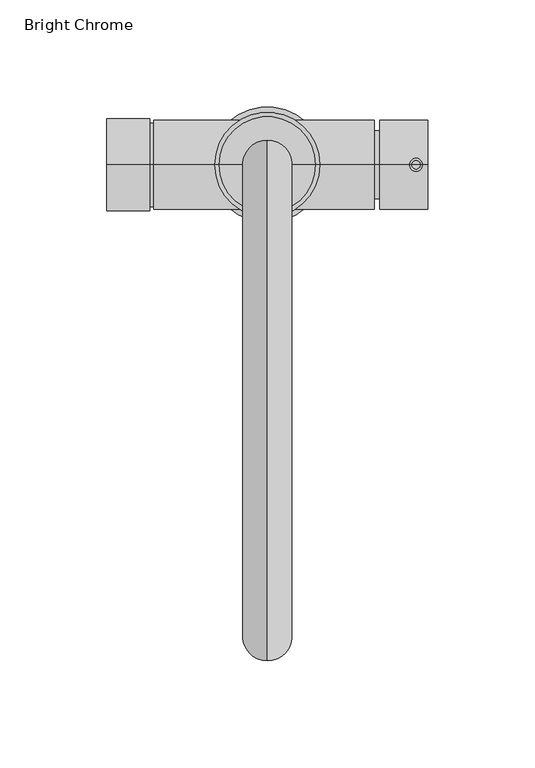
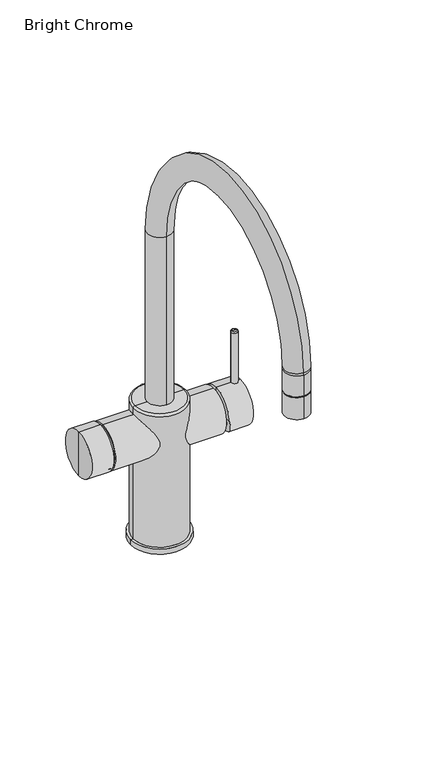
"""IFC4 building model written with IfcOpenShell, lengths in millimetres: flow terminal geometry, z_PlumFixt_Zenith_Celsius Arc : Bright Chrome."""

from ifc_helpers import new_model, si_unit, point, frame, frame_2d, origin, place, context, project, spatial, circle_curve, ellipse_curve, trimmed, segment, composite_curve, outline, extrude, source, transform, mapped, element, save
from ifc_brep_helpers import plane_surface, cylinder_surface, revolved_surface, advanced_brep


def bright_chrome_ca6152f3(model_context):
    return source(origin(), model_context, "Body", "SolidModel", [
        advanced_brep(
        [(68.5351919, 88.75, 176.8850432), (72.5351919, 88.75, 176.8850432), (70.5351919, 88.75, 176.8850432), (67.5351919, 88.75, 175.8850432), (73.5351919, 88.75, 175.8850432), (67.5351919, 88.75, 123.0), (73.5351919, 88.75, 123.0), (70.5351919, 88.75, 123.0)],
        [
            (0, 1, circle_curve(frame((70.5351919, 88.75, 176.8850432), z_axis=(0.0, 0.0, 1.0), x_axis=(1.0, 0.0, 0.0)), 2.0)),
            (1, 2),
            (2, 0),
            (1, 0, circle_curve(frame((70.5351919, 88.75, 176.8850432), z_axis=(0.0, 0.0, 1.0), x_axis=(1.0, 0.0, 0.0)), 2.0)),
            (3, 4, circle_curve(frame((70.5351919, 88.75, 175.8850432), z_axis=(0.0, 0.0, 1.0), x_axis=(1.0, 0.0, 0.0)), 3.0)),
            (4, 1, circle_curve(frame((72.5351919, 88.75, 175.8850432), z_axis=(0.0, -1.0, 0.0), x_axis=(-1.0, 0.0, 0.0)), 1.0)),
            (0, 3, circle_curve(frame((68.5351919, 88.75, 175.8850432), z_axis=(0.0, -1.0, 0.0), x_axis=(1.0, 0.0, 0.0)), 1.0)),
            (4, 3, circle_curve(frame((70.5351919, 88.75, 175.8850432), z_axis=(0.0, 0.0, 1.0), x_axis=(1.0, 0.0, 0.0)), 3.0)),
            (5, 6, circle_curve(frame((70.5351919, 88.75, 123.0), z_axis=(0.0, 0.0, 1.0), x_axis=(1.0, 0.0, 0.0)), 3.0)),
            (6, 4),
            (3, 5),
            (6, 5, circle_curve(frame((70.5351919, 88.75, 123.0), z_axis=(0.0, 0.0, 1.0), x_axis=(1.0, 0.0, 0.0)), 3.0)),
            (7, 6),
            (5, 7),
        ],
        [
            plane_surface(frame((70.5351919, 88.75, 176.8850432), z_axis=(0.0, 0.0, 1.0), x_axis=(1.0, 0.0, 0.0))),
            revolved_surface(trimmed(ellipse_curve(frame((72.5351919, 88.75, 175.8850432), z_axis=(0.0, 1.0, 0.0), x_axis=(-1.0, 0.0, 0.0)), 1.0, 1.0), [point((72.5351919, 88.75, 176.8850432))], [point((73.5351919, 88.75, 175.8850432))], True, "CARTESIAN"), (70.5351919, 88.75, 123.0), (0.0, 0.0, -1.0)),
            cylinder_surface(frame((70.5351919, 88.75, 123.0), z_axis=(0.0, 0.0, -1.0), x_axis=(1.0, 0.0, 0.0)), 3.0),
            plane_surface(frame((70.5351919, 88.75, 123.0), z_axis=(0.0, 0.0, -1.0), x_axis=(1.0, 0.0, 0.0))),
        ],
        [
            (0, [[1, 2, 3]]),
            (0, [[4, -3, -2]]),
            (1, [[5, 6, -1, 7]]),
            (1, [[8, -7, -4, -6]]),
            (2, [[9, 10, -5, 11]]),
            (2, [[12, -11, -8, -10]]),
            (3, [[13, -9, 14]]),
            (3, [[-14, -12, -13]]),
        ],
    ),
        advanced_brep(
        [(76.0, 88.75, 84.8850432), (76.0, 88.75, 126.8850432), (53.5, 88.75, 126.8850432), (53.5, 67.75, 105.8850432), (59.126933, 88.75, 84.8850432), (53.5, 109.75, 105.8850432), (53.5, 88.75, 105.8850432), (76.0, 88.75, 105.8850432)],
        [
            (0, 1, circle_curve(frame((76.0, 88.75, 105.8850432), z_axis=(-1.0, 0.0, 0.0), x_axis=(0.0, 0.0, 1.0)), 21.0)),
            (1, 2),
            (2, 3, circle_curve(frame((53.5, 88.75, 105.8850432), z_axis=(1.0, 0.0, 0.0), x_axis=(0.0, 0.0, 1.0)), 21.0)),
            (3, 4, ellipse_curve(frame((53.5, 88.75, 105.8850432), z_axis=(0.9659258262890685, 0.0, 0.2588190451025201), x_axis=(0.25881904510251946, 0.0, -0.9659258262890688)), 21.7407998, 21.0)),
            (4, 0),
            (1, 0, circle_curve(frame((76.0, 88.75, 105.8850432), z_axis=(-1.0, 0.0, 0.0), x_axis=(0.0, 0.0, 1.0)), 21.0)),
            (4, 5, ellipse_curve(frame((53.5, 88.75, 105.8850432), z_axis=(0.9659258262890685, 0.0, 0.2588190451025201), x_axis=(0.25881904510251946, 0.0, -0.9659258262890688)), 21.7407998, 21.0)),
            (5, 2, circle_curve(frame((53.5, 88.75, 105.8850432), z_axis=(1.0, 0.0, 0.0), x_axis=(0.0, 0.0, 1.0)), 21.0)),
            (2, 6),
            (6, 3),
            (5, 6),
            (0, 7),
            (7, 1),
        ],
        [
            cylinder_surface(frame((1.0, 88.75, 105.8850432), z_axis=(1.0, 0.0, 0.0), x_axis=(0.0, 0.0, 1.0)), 21.0),
            plane_surface(frame((53.5, 88.75, 105.8850432), z_axis=(-1.0, 0.0, 0.0), x_axis=(0.0, 0.0, 1.0))),
            plane_surface(frame((76.0, 88.75, 105.8850432), z_axis=(1.0, 0.0, 0.0), x_axis=(0.0, 0.0, 1.0))),
            plane_surface(frame((53.5, 115.75, 105.8850432), z_axis=(-0.9659258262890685, 0.0, -0.2588190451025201), x_axis=(0.0, -1.0, 0.0))),
        ],
        [
            (0, [[1, 2, 3, 4, 5]]),
            (0, [[-2, 6, -5, 7, 8]]),
            (1, [[9, 10, -3]]),
            (1, [[-9, -8, 11]]),
            (2, [[-1, 12, 13]]),
            (2, [[-6, -13, -12]]),
            (3, [[-4, -10, -11, -7]]),
        ],
    ),
        advanced_brep(
        [(1.0, -131.75, 253.0378342), (1.0, -136.75, 253.0378342), (1.0, -126.75, 253.0378342), (1.0, -136.75, 255.0), (1.0, -126.75, 255.0), (1.0, -143.25, 255.0), (1.0, -120.25, 255.0), (1.0, -120.25, 277.5), (1.0, -143.25, 277.5), (1.0, -143.25, 297.7861871), (1.0, -120.25, 297.7861871), (1.0, -121.2057691, 277.5), (1.0, -142.2942309, 277.5), (1.0, -121.2057691, 276.4755357), (1.0, -142.2942309, 276.4755357), (1.0, -120.25, 276.4755357), (1.0, -143.25, 276.4755357), (1.0, 100.25, 135.0), (1.0, 77.25, 135.0), (1.0, 100.25, 300.25), (1.0, 77.25, 300.25), (1.0, -143.25, 300.25), (1.0, -120.25, 300.25)],
        [
            (0, 1),
            (1, 2, circle_curve(frame((1.0, -131.75, 253.0378342), z_axis=(0.0, 0.0, -1.0), x_axis=(0.0, -1.0, 0.0)), 5.0)),
            (2, 0),
            (2, 1, circle_curve(frame((1.0, -131.75, 253.0378342), z_axis=(0.0, 0.0, -1.0), x_axis=(0.0, -1.0, 0.0)), 5.0)),
            (1, 3),
            (3, 4, circle_curve(frame((1.0, -131.75, 255.0), z_axis=(0.0, 0.0, -1.0), x_axis=(0.0, -1.0, 0.0)), 5.0)),
            (4, 2),
            (4, 3, circle_curve(frame((1.0, -131.75, 255.0), z_axis=(0.0, 0.0, -1.0), x_axis=(0.0, -1.0, 0.0)), 5.0)),
            (3, 5),
            (5, 6, circle_curve(frame((1.0, -131.75, 255.0), z_axis=(0.0, 0.0, -1.0), x_axis=(0.0, -1.0, 0.0)), 11.5)),
            (6, 4),
            (6, 5, circle_curve(frame((1.0, -131.75, 255.0), z_axis=(0.0, 0.0, -1.0), x_axis=(0.0, -1.0, 0.0)), 11.5)),
            (7, 8, circle_curve(frame((1.0, -131.75, 277.5), z_axis=(0.0, 0.0, 1.0), x_axis=(0.0, -1.0, 0.0)), 11.5)),
            (8, 9),
            (9, 10, circle_curve(frame((1.0, -131.75, 297.7861871), z_axis=(0.0, 0.0, -1.0), x_axis=(0.0, -1.0, 0.0)), 11.5)),
            (10, 7),
            (8, 7, circle_curve(frame((1.0, -131.75, 277.5), z_axis=(0.0, 0.0, 1.0), x_axis=(0.0, -1.0, 0.0)), 11.5)),
            (10, 9, circle_curve(frame((1.0, -131.75, 297.7861871), z_axis=(0.0, 0.0, -1.0), x_axis=(0.0, -1.0, 0.0)), 11.5)),
            (7, 11),
            (11, 12, circle_curve(frame((1.0, -131.75, 277.5), z_axis=(0.0, 0.0, 1.0), x_axis=(0.0, -1.0, 0.0)), 10.5442309)),
            (12, 8),
            (12, 11, circle_curve(frame((1.0, -131.75, 277.5), z_axis=(0.0, 0.0, 1.0), x_axis=(0.0, -1.0, 0.0)), 10.5442309)),
            (11, 13),
            (13, 14, circle_curve(frame((1.0, -131.75, 276.4755357), z_axis=(0.0, 0.0, 1.0), x_axis=(0.0, -1.0, 0.0)), 10.5442309)),
            (14, 12),
            (14, 13, circle_curve(frame((1.0, -131.75, 276.4755357), z_axis=(0.0, 0.0, 1.0), x_axis=(0.0, -1.0, 0.0)), 10.5442309)),
            (13, 15),
            (15, 16, circle_curve(frame((1.0, -131.75, 276.4755357), z_axis=(0.0, 0.0, 1.0), x_axis=(0.0, -1.0, 0.0)), 11.5)),
            (16, 14),
            (16, 15, circle_curve(frame((1.0, -131.75, 276.4755357), z_axis=(0.0, 0.0, 1.0), x_axis=(0.0, -1.0, 0.0)), 11.5)),
            (5, 16),
            (15, 6),
            (17, 18, circle_curve(frame((1.0, 88.75, 135.0), z_axis=(0.0, 0.0, -1.0), x_axis=(0.0, -1.0, 0.0)), 11.5)),
            (18, 17, circle_curve(frame((1.0, 88.75, 135.0), z_axis=(0.0, 0.0, -1.0), x_axis=(0.0, -1.0, 0.0)), 11.5)),
            (17, 19),
            (19, 20, circle_curve(frame((1.0, 88.75, 300.25), z_axis=(0.0, 0.0, -1.0), x_axis=(0.0, -1.0, 0.0)), 11.5)),
            (20, 18),
            (20, 19, circle_curve(frame((1.0, 88.75, 300.25), z_axis=(0.0, 0.0, -1.0), x_axis=(0.0, -1.0, 0.0)), 11.5)),
            (19, 21, circle_curve(frame((1.0, -21.5, 300.25), z_axis=(1.0, 0.0, 0.0), x_axis=(0.0, 1.0, 0.0)), 121.75)),
            (21, 22, circle_curve(frame((1.0, -131.75, 300.25), z_axis=(0.0, 0.0, 1.0), x_axis=(0.0, 1.0, 0.0)), 11.5)),
            (22, 20, circle_curve(frame((1.0, -21.5, 300.25), z_axis=(-1.0, 0.0, 0.0), x_axis=(0.0, 1.0, 0.0)), 98.75)),
            (22, 21, circle_curve(frame((1.0, -131.75, 300.25), z_axis=(0.0, 0.0, 1.0), x_axis=(0.0, 1.0, 0.0)), 11.5)),
            (21, 9),
            (10, 22),
        ],
        [
            plane_surface(frame((1.0, -131.75, 253.0378342), z_axis=(0.0, 0.0, -1.0), x_axis=(0.0, -1.0, 0.0))),
            cylinder_surface(frame((1.0, -131.75, 297.7861871), z_axis=(0.0, 0.0, -1.0), x_axis=(0.0, -1.0, 0.0)), 5.0),
            plane_surface(frame((1.0, -131.75, 255.0), z_axis=(0.0, 0.0, -1.0), x_axis=(0.0, -1.0, 0.0))),
            cylinder_surface(frame((1.0, -131.75, 297.7861871), z_axis=(0.0, 0.0, -1.0), x_axis=(0.0, -1.0, 0.0)), 11.5),
            plane_surface(frame((1.0, -131.75, 277.5), z_axis=(0.0, 0.0, -1.0), x_axis=(0.0, -1.0, 0.0))),
            cylinder_surface(frame((1.0, -131.75, 297.7861871), z_axis=(0.0, 0.0, -1.0), x_axis=(0.0, -1.0, 0.0)), 10.5442309),
            plane_surface(frame((1.0, -131.75, 276.4755357), z_axis=(0.0, 0.0, 1.0), x_axis=(0.0, -1.0, 0.0))),
            plane_surface(frame((1.0, 88.75, 135.0), z_axis=(0.0, 0.0, -1.0), x_axis=(1.0, 0.0, 0.0))),
            cylinder_surface(frame((1.0, 88.75, 135.0), z_axis=(0.0, 0.0, -1.0), x_axis=(0.0, -1.0, 0.0)), 11.5),
            revolved_surface(trimmed(ellipse_curve(frame((1.0, 88.75, 300.25), z_axis=(0.0, 0.0, -1.0), x_axis=(0.0, -1.0, 0.0)), 11.5, 11.5), [point((1.0, 100.25, 300.25))], [point((1.0, 77.25, 300.25))], True, "CARTESIAN"), (1.0, -21.5, 300.25), (1.0, 0.0, 0.0)),
            revolved_surface(trimmed(ellipse_curve(frame((1.0, 88.75, 300.25), z_axis=(0.0, 0.0, -1.0), x_axis=(0.0, -1.0, 0.0)), 11.5, 11.5), [point((1.0, 77.25, 300.25))], [point((1.0, 100.25, 300.25))], True, "CARTESIAN"), (1.0, -21.5, 300.25), (1.0, 0.0, 0.0)),
            cylinder_surface(frame((1.0, -131.75, 300.25), z_axis=(0.0, 0.0, 1.0), x_axis=(0.0, 1.0, 0.0)), 11.5),
        ],
        [
            (0, [[1, 2, 3]]),
            (0, [[-1, -3, 4]]),
            (1, [[-2, 5, 6, 7]]),
            (1, [[-4, -7, 8, -5]]),
            (2, [[-6, 9, 10, 11]]),
            (2, [[-8, -11, 12, -9]]),
            (3, [[13, 14, 15, 16]]),
            (3, [[-14, 17, -16, 18]]),
            (4, [[-13, 19, 20, 21]]),
            (4, [[-17, -21, 22, -19]]),
            (5, [[-20, 23, 24, 25]]),
            (5, [[-22, -25, 26, -23]]),
            (6, [[-24, 27, 28, 29]]),
            (6, [[-26, -29, 30, -27]]),
            (3, [[-10, 31, -28, 32]]),
            (3, [[-12, -32, -30, -31]]),
            (7, [[33, 34]]),
            (8, [[-33, 35, 36, 37]]),
            (8, [[-34, -37, 38, -35]]),
            (9, [[-36, 39, 40, 41]]),
            (10, [[-38, -41, 42, -39]]),
            (11, [[-40, 43, -18, 44]]),
            (11, [[-42, -44, -15, -43]]),
        ],
    ),
        extrude(outline(composite_curve([segment(trimmed(circle_curve(frame_2d((-6.35, 88.75)), 6.35), [point((0.0, 88.75))], [point((-12.7, 88.75))], False, "CARTESIAN"), True, "CONTINUOUS"), segment(trimmed(circle_curve(frame_2d((-6.35, 88.75)), 6.35), [point((-12.7, 88.75))], [point((0.0, 88.75))], False, "CARTESIAN"), True, "CONTINUOUS")], self_intersect=False)), frame((0.0, 0.0, -1.0), z_axis=(0.0, 0.0, 1.0), x_axis=(1.0, 0.0, 0.0)), (0.0, 0.0, 1.0), 1.0),
        extrude(outline(composite_curve([segment(trimmed(circle_curve(frame_2d((8.35, 88.75)), 6.35), [point((14.7, 88.75))], [point((2.0, 88.75))], False, "CARTESIAN"), True, "CONTINUOUS"), segment(trimmed(circle_curve(frame_2d((8.35, 88.75)), 6.35), [point((2.0, 88.75))], [point((14.7, 88.75))], False, "CARTESIAN"), True, "CONTINUOUS")], self_intersect=False)), frame((0.0, 0.0, -1.0), z_axis=(0.0, 0.0, 1.0), x_axis=(1.0, 0.0, 0.0)), (0.0, 0.0, 1.0), 1.0),
        advanced_brep(
        [(-54.0, 88.75, 86.3400719), (-54.0, 88.75, 125.4300145), (-54.0, 88.75, 127.4300145), (-54.0, 88.75, 84.3400719), (-52.0, 88.75, 86.3400719), (-52.0, 88.75, 125.4300145), (-52.0, 88.75, 84.8850432), (-52.0, 88.75, 126.8850432), (51.0, 88.75, 84.8850432), (51.0, 88.75, 126.8850432), (59.0, 88.75, 105.8850432), (59.0, 88.75, 121.8850432), (59.0, 88.75, 89.8850432), (-74.0, 88.75, 84.3400719), (-74.0, 88.75, 127.4300145), (-74.0, 88.75, 105.8850432), (51.0, 88.75, 89.8850432), (51.0, 88.75, 121.8850432)],
        [
            (0, 1, circle_curve(frame((-54.0, 88.75, 105.8850432), z_axis=(-1.0, 0.0, 0.0), x_axis=(0.0, 0.0, 1.0)), 19.5449713)),
            (1, 2),
            (2, 3, circle_curve(frame((-54.0, 88.75, 105.8850432), z_axis=(1.0, 0.0, 0.0), x_axis=(0.0, 0.0, 1.0)), 21.5449713)),
            (3, 0),
            (1, 0, circle_curve(frame((-54.0, 88.75, 105.8850432), z_axis=(-1.0, 0.0, 0.0), x_axis=(0.0, 0.0, 1.0)), 19.5449713)),
            (3, 2, circle_curve(frame((-54.0, 88.75, 105.8850432), z_axis=(1.0, 0.0, 0.0), x_axis=(0.0, 0.0, 1.0)), 21.5449713)),
            (4, 5, circle_curve(frame((-52.0, 88.75, 105.8850432), z_axis=(-1.0, 0.0, 0.0), x_axis=(0.0, 0.0, 1.0)), 19.5449713)),
            (5, 1),
            (0, 4),
            (5, 4, circle_curve(frame((-52.0, 88.75, 105.8850432), z_axis=(-1.0, 0.0, 0.0), x_axis=(0.0, 0.0, 1.0)), 19.5449713)),
            (6, 7, circle_curve(frame((-52.0, 88.75, 105.8850432), z_axis=(-1.0, 0.0, 0.0), x_axis=(0.0, 0.0, 1.0)), 21.0)),
            (7, 5),
            (4, 6),
            (7, 6, circle_curve(frame((-52.0, 88.75, 105.8850432), z_axis=(-1.0, 0.0, 0.0), x_axis=(0.0, 0.0, 1.0)), 21.0)),
            (8, 9, circle_curve(frame((51.0, 88.75, 105.8850432), z_axis=(-1.0, 0.0, 0.0), x_axis=(0.0, 0.0, 1.0)), 21.0)),
            (9, 7),
            (6, 8),
            (9, 8, circle_curve(frame((51.0, 88.75, 105.8850432), z_axis=(-1.0, 0.0, 0.0), x_axis=(0.0, 0.0, 1.0)), 21.0)),
            (10, 11),
            (11, 12, circle_curve(frame((59.0, 88.75, 105.8850432), z_axis=(1.0, 0.0, 0.0), x_axis=(0.0, 0.0, 1.0)), 16.0)),
            (12, 10),
            (12, 11, circle_curve(frame((59.0, 88.75, 105.8850432), z_axis=(1.0, 0.0, 0.0), x_axis=(0.0, 0.0, 1.0)), 16.0)),
            (13, 14, circle_curve(frame((-74.0, 88.75, 105.8850432), z_axis=(-1.0, 0.0, 0.0), x_axis=(0.0, 0.0, 1.0)), 21.5449713)),
            (14, 15),
            (15, 13),
            (14, 13, circle_curve(frame((-74.0, 88.75, 105.8850432), z_axis=(-1.0, 0.0, 0.0), x_axis=(0.0, 0.0, 1.0)), 21.5449713)),
            (2, 14),
            (13, 3),
            (16, 17, circle_curve(frame((51.0, 88.75, 105.8850432), z_axis=(-1.0, 0.0, 0.0), x_axis=(0.0, 0.0, 1.0)), 16.0)),
            (17, 9),
            (8, 16),
            (17, 16, circle_curve(frame((51.0, 88.75, 105.8850432), z_axis=(-1.0, 0.0, 0.0), x_axis=(0.0, 0.0, 1.0)), 16.0)),
            (11, 17),
            (16, 12),
        ],
        [
            plane_surface(frame((-54.0, 88.75, 105.8850432), z_axis=(1.0, 0.0, 0.0), x_axis=(0.0, 0.0, 1.0))),
            cylinder_surface(frame((1.0, 88.75, 105.8850432), z_axis=(1.0, 0.0, 0.0), x_axis=(0.0, 0.0, 1.0)), 19.5449713),
            plane_surface(frame((-52.0, 88.75, 105.8850432), z_axis=(-1.0, 0.0, 0.0), x_axis=(0.0, 0.0, 1.0))),
            cylinder_surface(frame((1.0, 88.75, 105.8850432), z_axis=(1.0, 0.0, 0.0), x_axis=(0.0, 0.0, 1.0)), 21.0),
            plane_surface(frame((59.0, 88.75, 105.8850432), z_axis=(1.0, 0.0, 0.0), x_axis=(0.0, 0.0, 1.0))),
            plane_surface(frame((-74.0, 88.75, 105.8850432), z_axis=(-1.0, 0.0, 0.0), x_axis=(0.0, 0.0, 1.0))),
            cylinder_surface(frame((1.0, 88.75, 105.8850432), z_axis=(1.0, 0.0, 0.0), x_axis=(0.0, 0.0, 1.0)), 21.5449713),
            plane_surface(frame((51.0, 88.75, 105.8850432), z_axis=(1.0, 0.0, 0.0), x_axis=(0.0, 0.0, 1.0))),
            cylinder_surface(frame((1.0, 88.75, 105.8850432), z_axis=(1.0, 0.0, 0.0), x_axis=(0.0, 0.0, 1.0)), 16.0),
        ],
        [
            (0, [[1, 2, 3, 4]]),
            (0, [[5, -4, 6, -2]]),
            (1, [[7, 8, -1, 9]]),
            (1, [[10, -9, -5, -8]]),
            (2, [[11, 12, -7, 13]]),
            (2, [[14, -13, -10, -12]]),
            (3, [[15, 16, -11, 17]]),
            (3, [[18, -17, -14, -16]]),
            (4, [[19, 20, 21]]),
            (4, [[-21, 22, -19]]),
            (5, [[23, 24, 25]]),
            (5, [[26, -25, -24]]),
            (6, [[-3, 27, -23, 28]]),
            (6, [[-6, -28, -26, -27]]),
            (7, [[29, 30, -15, 31]]),
            (7, [[32, -31, -18, -30]]),
            (8, [[-20, 33, -29, 34]]),
            (8, [[-22, -34, -32, -33]]),
        ],
    ),
        advanced_brep(
        [(1.0, 88.75, 0.0), (28.0, 88.75, 0.0), (-26.0, 88.75, 0.0), (-21.5, 88.75, 135.0), (23.5, 88.75, 135.0), (1.0, 88.75, 135.0), (-23.5, 88.75, 5.0), (25.5, 88.75, 5.0), (25.5, 88.75, 133.0), (-23.5, 88.75, 133.0), (-26.0, 88.75, 5.0), (28.0, 88.75, 5.0)],
        [
            (0, 1),
            (1, 2, circle_curve(frame((1.0, 88.75, 0.0), z_axis=(0.0, 0.0, -1.0), x_axis=(1.0, 0.0, 0.0)), 27.0)),
            (2, 0),
            (2, 1, circle_curve(frame((1.0, 88.75, 0.0), z_axis=(0.0, 0.0, -1.0), x_axis=(1.0, 0.0, 0.0)), 27.0)),
            (3, 4, circle_curve(frame((1.0, 88.75, 135.0), z_axis=(0.0, 0.0, 1.0), x_axis=(1.0, 0.0, 0.0)), 22.5)),
            (4, 5),
            (5, 3),
            (4, 3, circle_curve(frame((1.0, 88.75, 135.0), z_axis=(0.0, 0.0, 1.0), x_axis=(1.0, 0.0, 0.0)), 22.5)),
            (6, 7, circle_curve(frame((1.0, 88.75, 5.0), z_axis=(0.0, 0.0, 1.0), x_axis=(1.0, 0.0, 0.0)), 24.5)),
            (7, 8),
            (8, 9, circle_curve(frame((1.0, 88.75, 133.0), z_axis=(0.0, 0.0, -1.0), x_axis=(1.0, 0.0, 0.0)), 24.5)),
            (9, 6),
            (7, 6, circle_curve(frame((1.0, 88.75, 5.0), z_axis=(0.0, 0.0, 1.0), x_axis=(1.0, 0.0, 0.0)), 24.5)),
            (9, 8, circle_curve(frame((1.0, 88.75, 133.0), z_axis=(0.0, 0.0, -1.0), x_axis=(1.0, 0.0, 0.0)), 24.5)),
            (10, 11, circle_curve(frame((1.0, 88.75, 5.0), z_axis=(0.0, 0.0, 1.0), x_axis=(1.0, 0.0, 0.0)), 27.0)),
            (11, 7),
            (6, 10),
            (11, 10, circle_curve(frame((1.0, 88.75, 5.0), z_axis=(0.0, 0.0, 1.0), x_axis=(1.0, 0.0, 0.0)), 27.0)),
            (1, 11),
            (10, 2),
            (8, 4, circle_curve(frame((23.5, 88.75, 133.0), z_axis=(0.0, -1.0, 0.0), x_axis=(-1.0, 0.0, 0.0)), 2.0)),
            (3, 9, circle_curve(frame((-21.5, 88.75, 133.0), z_axis=(0.0, -1.0, 0.0), x_axis=(1.0, 0.0, 0.0)), 2.0)),
        ],
        [
            plane_surface(frame((1.0, 88.75, 0.0), z_axis=(0.0, 0.0, -1.0), x_axis=(1.0, 0.0, 0.0))),
            plane_surface(frame((1.0, 88.75, 135.0), z_axis=(0.0, 0.0, 1.0), x_axis=(1.0, 0.0, 0.0))),
            cylinder_surface(frame((1.0, 88.75, 135.0), z_axis=(0.0, 0.0, -1.0), x_axis=(1.0, 0.0, 0.0)), 24.5),
            plane_surface(frame((1.0, 88.75, 5.0), z_axis=(0.0, 0.0, 1.0), x_axis=(1.0, 0.0, 0.0))),
            cylinder_surface(frame((1.0, 88.75, 135.0), z_axis=(0.0, 0.0, -1.0), x_axis=(1.0, 0.0, 0.0)), 27.0),
            revolved_surface(trimmed(ellipse_curve(frame((23.5, 88.75, 133.0), z_axis=(0.0, 1.0, 0.0), x_axis=(-1.0, 0.0, 0.0)), 2.0, 2.0), [point((23.5, 88.75, 135.0))], [point((25.5, 88.75, 133.0))], True, "CARTESIAN"), (1.0, 88.75, 135.0), (0.0, 0.0, -1.0)),
        ],
        [
            (0, [[1, 2, 3]]),
            (0, [[-3, 4, -1]]),
            (1, [[5, 6, 7]]),
            (1, [[8, -7, -6]]),
            (2, [[9, 10, 11, 12]]),
            (2, [[13, -12, 14, -10]]),
            (3, [[15, 16, -9, 17]]),
            (3, [[18, -17, -13, -16]]),
            (4, [[-2, 19, -15, 20]]),
            (4, [[-4, -20, -18, -19]]),
            (5, [[-11, 21, -5, 22]]),
            (5, [[-14, -22, -8, -21]]),
        ],
    ),
    ])


if __name__ == "__main__":
    model = new_model("IFC4")
    model_context = context("Model", 3, world=origin())
    ifc_project = project(units=[si_unit("LENGTHUNIT", "METRE", prefix="MILLI")], contexts=[model_context])
    site = spatial("IfcSite", under=ifc_project)
    building = spatial("IfcBuilding", under=site)
    placement = place(None, origin())
    bright_chrome_shape = bright_chrome_ca6152f3(model_context)
    element("IfcFlowTerminal", 1, ObjectType="z_PlumFixt_Zenith_Celsius Arc : Bright Chrome", at=placement, inside=building, context=model_context, shape_type="MappedRepresentation", body=[
        mapped(bright_chrome_shape, transform((0.0, 0.0, 0.0), x_axis=(1.0, 0.0, 0.0), y_axis=(0.0, 1.0, 0.0), z_axis=(0.0, 0.0, 1.0))),
    ])
    save(model, "model.ifc")
